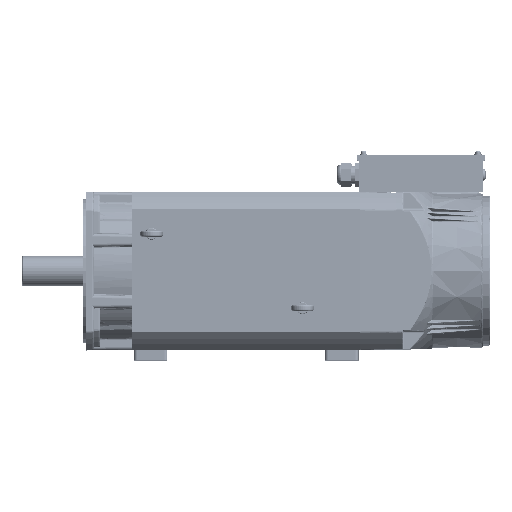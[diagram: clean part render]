
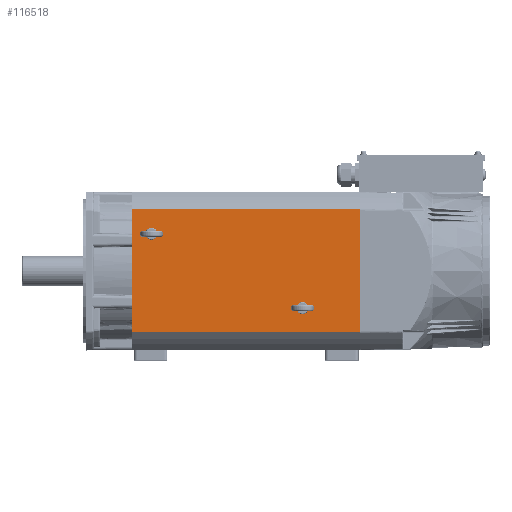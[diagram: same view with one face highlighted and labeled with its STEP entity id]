
A CAD part, top view. The second image highlights one B-rep face of the part: STEP entity #116518.
In plain terms, the highlighted planar face has unit normal (0, 0, 1) as drawn and (0, -1, 0) by its records, which use the part's own axes.
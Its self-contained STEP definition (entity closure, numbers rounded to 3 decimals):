
#3819 = CARTESIAN_POINT ( 'NONE',  ( 76.959, -98.5, 155. ) ) ;
#9932 = DIRECTION ( 'NONE',  ( 0., 0., -1. ) ) ;
#11083 = VERTEX_POINT ( 'NONE', #36598 ) ;
#12295 = VERTEX_POINT ( 'NONE', #212201 ) ;
#16894 = CARTESIAN_POINT ( 'NONE',  ( 76.959, -98.5, 285. ) ) ;
#18045 = EDGE_CURVE ( 'NONE', #209402, #11083, #103821, .T. ) ;
#20409 = ORIENTED_EDGE ( 'NONE', *, *, #65462, .F. ) ;
#22415 = EDGE_CURVE ( 'NONE', #215143, #145808, #67292, .T. ) ;
#24990 = CARTESIAN_POINT ( 'NONE',  ( 76.959, -98.5, 155. ) ) ;
#25190 = FACE_OUTER_BOUND ( 'NONE', #58652, .T. ) ;
#27908 = CIRCLE ( 'NONE', #150661, 3.4 ) ;
#29365 = CIRCLE ( 'NONE', #150734, 3.4 ) ;
#31365 = CARTESIAN_POINT ( 'NONE',  ( -76.959, -98.5, 0. ) ) ;
#31382 = CARTESIAN_POINT ( 'NONE',  ( -46.5, -98.5, 24. ) ) ;
#35181 = EDGE_CURVE ( 'NONE', #212442, #46705, #178824, .T. ) ;
#36598 = CARTESIAN_POINT ( 'NONE',  ( 46.5, -98.5, 209.6 ) ) ;
#43635 = ORIENTED_EDGE ( 'NONE', *, *, #178744, .F. ) ;
#46705 = VERTEX_POINT ( 'NONE', #157239 ) ;
#51351 = ORIENTED_EDGE ( 'NONE', *, *, #22415, .T. ) ;
#58504 = VECTOR ( 'NONE', #100932, 1000. ) ;
#58652 = EDGE_LOOP ( 'NONE', ( #116725, #85700, #192667, #51351 ) ) ;
#59419 = VECTOR ( 'NONE', #149814, 1000. ) ;
#64369 = ORIENTED_EDGE ( 'NONE', *, *, #18045, .F. ) ;
#64485 = EDGE_CURVE ( 'NONE', #215143, #212442, #202251, .T. ) ;
#65462 = EDGE_CURVE ( 'NONE', #12295, #86554, #29365, .T. ) ;
#67278 = CARTESIAN_POINT ( 'NONE',  ( 76.959, -98.5, 0. ) ) ;
#67292 = LINE ( 'NONE', #172539, #187549 ) ;
#85700 = ORIENTED_EDGE ( 'NONE', *, *, #35181, .F. ) ;
#86554 = VERTEX_POINT ( 'NONE', #191564 ) ;
#86575 = DIRECTION ( 'NONE',  ( 0., 0., -1. ) ) ;
#90718 = AXIS2_PLACEMENT_3D ( 'NONE', #24990, #208386, #192247 ) ;
#97710 = DIRECTION ( 'NONE',  ( 0., 0., -1. ) ) ;
#100932 = DIRECTION ( 'NONE',  ( 1., 0., 0. ) ) ;
#103797 = LINE ( 'NONE', #67278, #59419 ) ;
#103821 = CIRCLE ( 'NONE', #156472, 3.4 ) ;
#107712 = AXIS2_PLACEMENT_3D ( 'NONE', #31382, #162188, #146193 ) ;
#108295 = PLANE ( 'NONE',  #90718 ) ;
#110150 = CARTESIAN_POINT ( 'NONE',  ( 46.5, -98.5, 213. ) ) ;
#111456 = DIRECTION ( 'NONE',  ( 0., 0., -1. ) ) ;
#114146 = FACE_BOUND ( 'NONE', #115982, .T. ) ;
#115982 = EDGE_LOOP ( 'NONE', ( #180001, #20409 ) ) ;
#116518 = ADVANCED_FACE ( 'NONE', ( #114146, #181975, #25190 ), #108295, .F. ) ;
#116725 = ORIENTED_EDGE ( 'NONE', *, *, #123002, .T. ) ;
#123002 = EDGE_CURVE ( 'NONE', #145808, #46705, #103797, .T. ) ;
#127453 = CARTESIAN_POINT ( 'NONE',  ( 46.5, -98.5, 213. ) ) ;
#137534 = DIRECTION ( 'NONE',  ( 0., 0., -1. ) ) ;
#145808 = VERTEX_POINT ( 'NONE', #31365 ) ;
#146193 = DIRECTION ( 'NONE',  ( 0., 0., -1. ) ) ;
#149814 = DIRECTION ( 'NONE',  ( 1., 0., 0. ) ) ;
#150661 = AXIS2_PLACEMENT_3D ( 'NONE', #127453, #210718, #111456 ) ;
#150734 = AXIS2_PLACEMENT_3D ( 'NONE', #214590, #197028, #97710 ) ;
#153126 = EDGE_CURVE ( 'NONE', #86554, #12295, #173311, .T. ) ;
#155200 = EDGE_LOOP ( 'NONE', ( #43635, #64369 ) ) ;
#156472 = AXIS2_PLACEMENT_3D ( 'NONE', #110150, #192618, #9932 ) ;
#157239 = CARTESIAN_POINT ( 'NONE',  ( 76.959, -98.5, 0. ) ) ;
#162188 = DIRECTION ( 'NONE',  ( 0., -1., 0. ) ) ;
#172539 = CARTESIAN_POINT ( 'NONE',  ( -76.959, -98.5, 155. ) ) ;
#173311 = CIRCLE ( 'NONE', #107712, 3.4 ) ;
#178744 = EDGE_CURVE ( 'NONE', #11083, #209402, #27908, .T. ) ;
#178824 = LINE ( 'NONE', #3819, #202308 ) ;
#180001 = ORIENTED_EDGE ( 'NONE', *, *, #153126, .F. ) ;
#181975 = FACE_BOUND ( 'NONE', #155200, .T. ) ;
#187549 = VECTOR ( 'NONE', #137534, 1000. ) ;
#191564 = CARTESIAN_POINT ( 'NONE',  ( -46.5, -98.5, 20.6 ) ) ;
#192247 = DIRECTION ( 'NONE',  ( -1., 0., 0. ) ) ;
#192618 = DIRECTION ( 'NONE',  ( 0., -1., 0. ) ) ;
#192667 = ORIENTED_EDGE ( 'NONE', *, *, #64485, .F. ) ;
#197028 = DIRECTION ( 'NONE',  ( 0., -1., 0. ) ) ;
#202251 = LINE ( 'NONE', #16894, #58504 ) ;
#202308 = VECTOR ( 'NONE', #86575, 1000. ) ;
#206102 = CARTESIAN_POINT ( 'NONE',  ( -76.959, -98.5, 285. ) ) ;
#208386 = DIRECTION ( 'NONE',  ( 0., 1., 0. ) ) ;
#209402 = VERTEX_POINT ( 'NONE', #210352 ) ;
#210352 = CARTESIAN_POINT ( 'NONE',  ( 46.5, -98.5, 216.4 ) ) ;
#210718 = DIRECTION ( 'NONE',  ( 0., -1., 0. ) ) ;
#212201 = CARTESIAN_POINT ( 'NONE',  ( -46.5, -98.5, 27.4 ) ) ;
#212442 = VERTEX_POINT ( 'NONE', #213592 ) ;
#213592 = CARTESIAN_POINT ( 'NONE',  ( 76.959, -98.5, 285. ) ) ;
#214590 = CARTESIAN_POINT ( 'NONE',  ( -46.5, -98.5, 24. ) ) ;
#215143 = VERTEX_POINT ( 'NONE', #206102 ) ;
